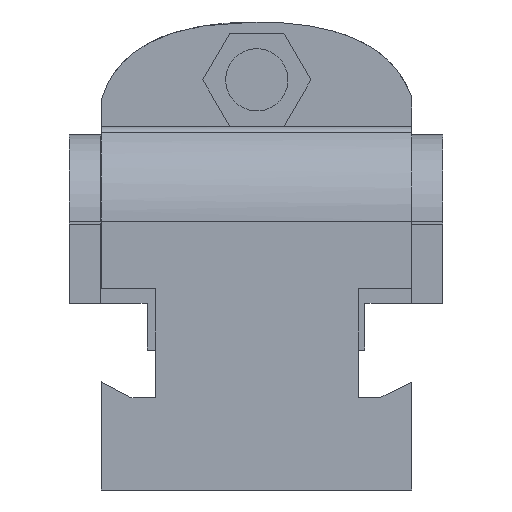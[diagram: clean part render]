
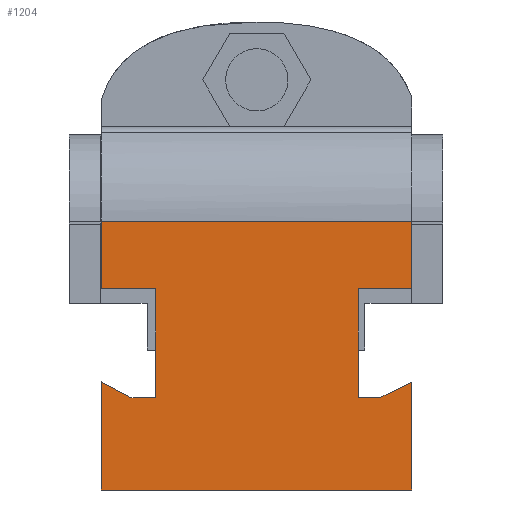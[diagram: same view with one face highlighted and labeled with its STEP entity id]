
A CAD part, left-side view. The second image highlights one B-rep face of the part: STEP entity #1204.
In plain terms, the highlighted planar face has unit normal (-1, 0, 0).
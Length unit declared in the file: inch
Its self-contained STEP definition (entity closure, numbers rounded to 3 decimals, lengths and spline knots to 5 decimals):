
#724=EDGE_CURVE('',#1932,#1933,#1934,.T.);
#778=EDGE_CURVE('',#2024,#2025,#2026,.T.);
#794=EDGE_CURVE('',#1932,#2051,#2052,.T.);
#846=EDGE_CURVE('',#2025,#2141,#2142,.T.);
#1132=EDGE_CURVE('',#2039,#1933,#2556,.T.);
#1204=ADVANCED_FACE('',(#2647),#2648,.T.);
#1256=EDGE_CURVE('',#2051,#2024,#2714,.T.);
#1304=EDGE_CURVE('',#1888,#2188,#2774,.T.);
#1324=EDGE_CURVE('',#2798,#2266,#2799,.T.);
#1368=EDGE_CURVE('',#2141,#2446,#2856,.T.);
#1448=EDGE_CURVE('',#2188,#2949,#2950,.T.);
#1458=EDGE_CURVE('',#2266,#1888,#2961,.T.);
#1472=EDGE_CURVE('',#2976,#2039,#2977,.T.);
#1530=EDGE_CURVE('',#2949,#2976,#3040,.T.);
#1534=EDGE_CURVE('',#2446,#2798,#3045,.T.);
#1888=VERTEX_POINT('',#3546);
#1932=VERTEX_POINT('',#3640);
#1933=VERTEX_POINT('',#3641);
#1934=LINE('',#3642,#3643);
#2024=VERTEX_POINT('',#3788);
#2025=VERTEX_POINT('',#3789);
#2026=LINE('',#3790,#3791);
#2039=VERTEX_POINT('',#3809);
#2051=VERTEX_POINT('',#3827);
#2052=LINE('',#3828,#3829);
#2141=VERTEX_POINT('',#3982);
#2142=LINE('',#3983,#3984);
#2188=VERTEX_POINT('',#4066);
#2266=VERTEX_POINT('',#4214);
#2446=VERTEX_POINT('',#4772);
#2556=LINE('',#5061,#5062);
#2647=FACE_OUTER_BOUND('',#5271,.T.);
#2648=PLANE('',#5272);
#2714=LINE('',#5389,#5390);
#2774=LINE('',#5500,#5501);
#2798=VERTEX_POINT('',#5537);
#2799=LINE('',#5538,#5539);
#2856=LINE('',#5653,#5654);
#2949=VERTEX_POINT('',#5851);
#2950=LINE('',#5852,#5853);
#2961=LINE('',#5871,#5872);
#2976=VERTEX_POINT('',#5902);
#2977=LINE('',#5903,#5904);
#3040=LINE('',#6061,#6062);
#3045=LINE('',#6068,#6069);
#3546=CARTESIAN_POINT('',(0.0,0.,0.43207));
#3640=CARTESIAN_POINT('',(0.0,1.24627,1.07957));
#3641=CARTESIAN_POINT('',(0.0,0.,1.07957));
#3642=CARTESIAN_POINT('',(0.0,1.25,1.07957));
#3643=VECTOR('',#6841,1.0);
#3788=CARTESIAN_POINT('',(0.0,1.02776,0.80882));
#3789=CARTESIAN_POINT('',(0.0,1.02776,0.37132));
#3790=CARTESIAN_POINT('',(0.0,1.02776,0.56493));
#3791=VECTOR('',#6918,1.0);
#3809=CARTESIAN_POINT('',(0.0,0.,0.80882));
#3827=CARTESIAN_POINT('',(0.0,1.24627,0.80882));
#3828=CARTESIAN_POINT('',(0.0,1.24627,0.86433));
#3829=VECTOR('',#6945,1.0);
#3982=CARTESIAN_POINT('',(0.0,1.12731,0.37132));
#3983=CARTESIAN_POINT('',(0.0,1.16377,0.37132));
#3984=VECTOR('',#6963,1.0);
#4066=CARTESIAN_POINT('',(0.0,0.12731,0.37132));
#4214=CARTESIAN_POINT('',(0.0,0.,0.0));
#4772=CARTESIAN_POINT('',(0.0,1.24627,0.43385));
#5061=CARTESIAN_POINT('',(0.0,0.,0.0));
#5062=VECTOR('',#7421,1.0);
#5271=EDGE_LOOP('',(#7479,#7480,#7481,#7482,#7483,#7484,#7485,#7486,#7487,#7488,#7489,#7490,#7491,#7492));
#5272=AXIS2_PLACEMENT_3D('',#7493,#7494,#7495);
#5389=CARTESIAN_POINT('',(0.0,1.19351,0.80882));
#5390=VECTOR('',#7577,1.0);
#5500=CARTESIAN_POINT('',(0.0,0.51904,0.18439));
#5501=VECTOR('',#7643,1.);
#5537=CARTESIAN_POINT('',(0.0,1.24627,0.0));
#5538=CARTESIAN_POINT('',(0.0,1.25,0.0));
#5539=VECTOR('',#7673,1.0);
#5653=CARTESIAN_POINT('',(0.0,1.2398,0.43045));
#5654=VECTOR('',#7736,1.0);
#5851=CARTESIAN_POINT('',(0.0,0.21526,0.37132));
#5852=CARTESIAN_POINT('',(0.0,0.71064,0.37132));
#5853=VECTOR('',#7865,1.0);
#5871=CARTESIAN_POINT('',(0.0,0.,0.0));
#5872=VECTOR('',#7878,1.0);
#5902=CARTESIAN_POINT('',(0.0,0.21526,0.80882));
#5903=CARTESIAN_POINT('',(0.0,0.67788,0.80882));
#5904=VECTOR('',#7891,1.0);
#6061=CARTESIAN_POINT('',(0.0,0.21526,0.56493));
#6062=VECTOR('',#7943,1.0);
#6068=CARTESIAN_POINT('',(0.0,1.24627,0.36326));
#6069=VECTOR('',#7952,1.0);
#6841=DIRECTION('',(0.0,-1.0,0.0));
#6918=DIRECTION('',(0.0,-0.0,-1.0));
#6945=DIRECTION('',(0.0,-0.0,-1.0));
#6963=DIRECTION('',(-0.0,1.0,-0.0));
#7421=DIRECTION('',(0.0,0.0,1.0));
#7479=ORIENTED_EDGE('',*,*,#1534,.T.);
#7480=ORIENTED_EDGE('',*,*,#1324,.T.);
#7481=ORIENTED_EDGE('',*,*,#1458,.T.);
#7482=ORIENTED_EDGE('',*,*,#1304,.T.);
#7483=ORIENTED_EDGE('',*,*,#1448,.T.);
#7484=ORIENTED_EDGE('',*,*,#1530,.T.);
#7485=ORIENTED_EDGE('',*,*,#1472,.T.);
#7486=ORIENTED_EDGE('',*,*,#1132,.T.);
#7487=ORIENTED_EDGE('',*,*,#724,.F.);
#7488=ORIENTED_EDGE('',*,*,#794,.T.);
#7489=ORIENTED_EDGE('',*,*,#1256,.T.);
#7490=ORIENTED_EDGE('',*,*,#778,.T.);
#7491=ORIENTED_EDGE('',*,*,#846,.T.);
#7492=ORIENTED_EDGE('',*,*,#1368,.T.);
#7493=CARTESIAN_POINT('',(0.0,1.25,0.53978));
#7494=DIRECTION('',(-1.0,0.0,0.0));
#7495=DIRECTION('',(0.0,0.0,-1.0));
#7577=DIRECTION('',(0.0,-1.0,0.0));
#7643=DIRECTION('',(-0.0,0.903,-0.431));
#7673=DIRECTION('',(0.0,-1.0,0.0));
#7736=DIRECTION('',(0.0,0.885,0.465));
#7865=DIRECTION('',(-0.0,1.0,-0.0));
#7878=DIRECTION('',(0.0,0.0,1.0));
#7891=DIRECTION('',(0.0,-1.0,0.0));
#7943=DIRECTION('',(0.0,0.0,1.0));
#7952=DIRECTION('',(0.0,-0.0,-1.0));
